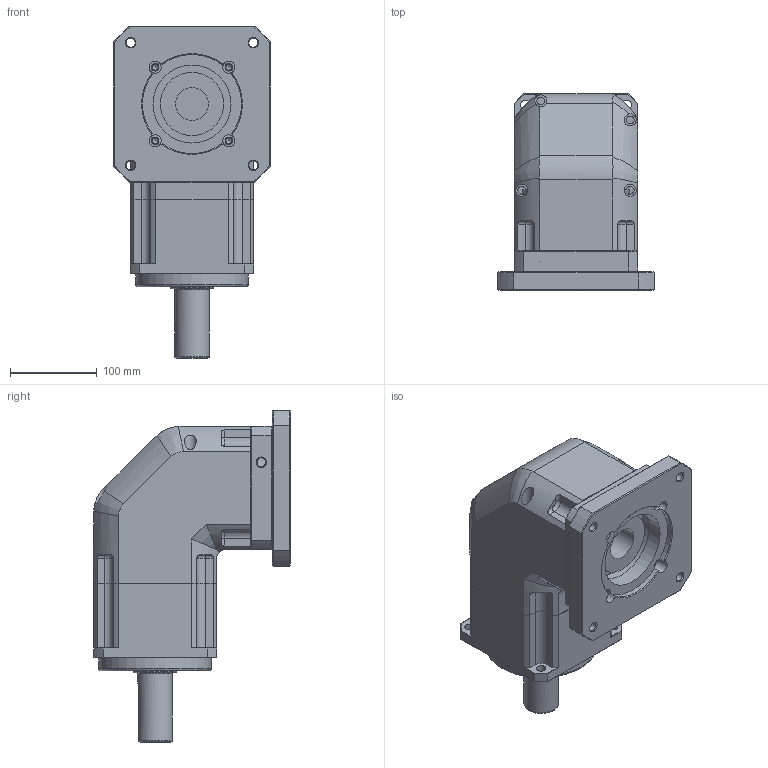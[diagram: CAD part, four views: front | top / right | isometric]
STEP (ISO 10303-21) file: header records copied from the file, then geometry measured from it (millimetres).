
FILE_DESCRIPTION((''),'2;1');
FILE_NAME('C:\Users\nagyu\Desktop\유성감속기-진행자료\도면\3D\2. 홈페이지용 3D 도면 (ipt)\외부도\SPL142\SPLH142 (1STAGE-KEY TYPE).stp','2012-07-23T11:27:14',('nagyu'),(''),'Autodesk Inventor 2012','Autodesk Inventor 2012','');
FILE_SCHEMA(('AUTOMOTIVE_DESIGN { 1 0 10303 214 1 1 1 1 }'));
Length unit declared in the file: millimetre
Products named in the file (2): SPLH142 1단.iam (대체 세부 수준1); SPLH142 1단_대체_1
Assembly tree (1 placements, depth 2):
  SPLH142 1단.iam (대체 세부 수준1)
    SPLH142 1단_대체_1
Bounding box: 180 x 227 x 383 mm (x, y, z)
Volume: 5487579.3 mm3; surface area: 449041.8 mm2
Topology: 4 solids, 4 shells, 354 faces, 885 edges, 562 vertices
Faces by surface type: plane 139, cylinder 139, cone 60, torus 12, bspline 4
Full cylindrical faces by diameter (mm): 6.647 x8, 8.7 x8, 9 x4, 10.106 x5, 11 x4, 13.835 x1, 14 x12, 15 x1, 18 x1, 19 x1, 19.1 x1, 38 x1, 40 x1, 44.8 x1, 49.7 x1, 73 x1, 80 x1, 90 x3, 100 x3, 103 x1, 110 x1, 120 x2, 130 x2
Entity records: 10729 total; most frequent: CARTESIAN_POINT 2629, DIRECTION 1666, ORIENTED_EDGE 1500, EDGE_CURVE 750, AXIS2_PLACEMENT_3D 690, VERTEX_POINT 525, EDGE_LOOP 521, FACE_OUTER_BOUND 354
